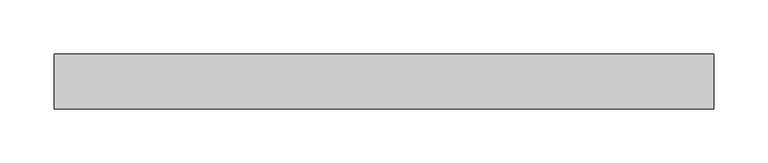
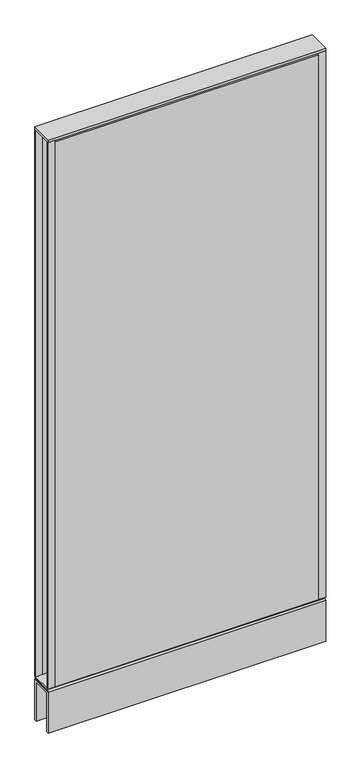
"""IFC4 building model written with IfcOpenShell, lengths in millimetres: furniture geometry, Steelcase - Kick Solutions - Panel - Monolithic - Tackable Acoustical : 54H x 24W."""

from ifc_helpers import new_model, si_unit, frame, origin, place, context, project, spatial, polyline, outline, extrude, source, transform, mapped, element, save


def furniture_e8d1a980(model_context):
    return source(origin(), model_context, "Body", "SweptSolid", [
        extrude(outline(polyline([(0.0, 101.7169049), (-3.1750015, 101.7169049), (-3.1750015, 1371.7169018), (0.0, 1368.6357466), (0.0, 101.7169049)])), frame((15.8749996, 0.0, 0.0), z_axis=(1.0, 0.0, 0.0), x_axis=(0.0, 1.0, 0.0)), (0.0, 0.0, 1.0), 577.8500008),
        extrude(outline(polyline([(-50.8000015, 101.7169049), (-50.8000015, 1368.6357466), (-47.625, 1371.7169018), (-47.625, 101.7169049), (-50.8000015, 101.7169049)])), frame((15.8749996, 0.0, 0.0), z_axis=(1.0, 0.0, 0.0), x_axis=(0.0, 1.0, 0.0)), (0.0, 0.0, 1.0), 577.8500008),
        extrude(outline(polyline([(609.6, -3.1750015), (593.7250004, -3.1750015), (593.7250004, 0.0), (609.6, 0.0), (609.6, -3.1750015)])), frame((0.0, 0.0, 101.7169049), z_axis=(0.0, 0.0, 1.0), x_axis=(1.0, 0.0, 0.0)), (0.0, 0.0, 1.0), 1269.999997),
        extrude(outline(polyline([(15.8749996, -50.8000015), (0.0, -50.8000015), (0.0, -47.625), (15.8749996, -47.625), (15.8749996, -50.8000015)])), frame((0.0, 0.0, 101.7169049), z_axis=(0.0, 0.0, 1.0), x_axis=(1.0, 0.0, 0.0)), (0.0, 0.0, 1.0), 1269.999997),
        extrude(outline(polyline([(-50.7995075, 101.7169049), (-0.000494, 101.7169049), (-3.0583512, 98.5421458), (-47.7416503, 98.5421458), (-50.7995075, 101.7169049)])), frame((0.0, 0.0, 0.0), z_axis=(1.0, 0.0, 0.0), x_axis=(0.0, 1.0, 0.0)), (0.0, 0.0, 1.0), 609.6),
        extrude(outline(polyline([(609.6, 0.0), (609.6, -50.8000015), (0.0, -50.8000015), (0.0, 0.0), (609.6, 0.0)])), frame((0.0, 0.0, 1371.7169018), z_axis=(0.0, 0.0, 1.0), x_axis=(1.0, 0.0, 0.0)), (0.0, 0.0, 1.0), 6.35),
        extrude(outline(polyline([(15.8749996, -3.1750015), (0.0, -3.1750015), (0.0, 0.0), (15.8749996, 0.0), (15.8749996, -3.1750015)])), frame((0.0, 0.0, 101.7169049), z_axis=(0.0, 0.0, 1.0), x_axis=(1.0, 0.0, 0.0)), (0.0, 0.0, 1.0), 1269.999997),
        extrude(outline(polyline([(609.6, -50.8000015), (593.7250004, -50.8000015), (593.7250004, -47.625), (609.6, -47.625), (609.6, -50.8000015)])), frame((0.0, 0.0, 101.7169049), z_axis=(0.0, 0.0, 1.0), x_axis=(1.0, 0.0, 0.0)), (0.0, 0.0, 1.0), 1269.999997),
        extrude(outline(polyline([(-50.8000015, 95.3668927), (-47.6247484, 98.5421458), (-3.1752531, 98.5421458), (0.0, 95.3668927), (-50.8000015, 95.3668927)])), frame((0.0, 0.0, 0.0), z_axis=(1.0, 0.0, 0.0), x_axis=(0.0, 1.0, 0.0)), (0.0, 0.0, 1.0), 609.6),
        extrude(outline(polyline([(0.0, 0.0), (-5.08, 0.0), (-5.08, 90.2869018), (-45.7200015, 90.2869018), (-45.7200015, 0.0), (-50.8000015, 0.0), (-50.8000015, 95.3669018), (0.0, 95.3669018), (0.0, 0.0)])), frame((0.0, 0.0, 0.0), z_axis=(1.0, 0.0, 0.0), x_axis=(0.0, 1.0, 0.0)), (0.0, 0.0, 1.0), 609.6),
    ])


if __name__ == "__main__":
    model = new_model("IFC4")
    model_context = context("Model", 3, world=origin())
    ifc_project = project(units=[si_unit("LENGTHUNIT", "METRE", prefix="MILLI")], contexts=[model_context])
    site = spatial("IfcSite", under=ifc_project)
    building = spatial("IfcBuilding", under=site)
    placement = place(None, origin())
    furniture_shape = furniture_e8d1a980(model_context)
    element("IfcFurniture", 1, ObjectType="Steelcase - Kick Solutions - Panel - Monolithic - Tackable Acoustical : 54H x 24W", at=placement, inside=building, context=model_context, shape_type="MappedRepresentation", body=[
        mapped(furniture_shape, transform((0.0, 0.0, 0.0), x_axis=(1.0, 0.0, 0.0), y_axis=(0.0, 1.0, 0.0), z_axis=(0.0, 0.0, 1.0))),
    ])
    save(model, "model.ifc")
